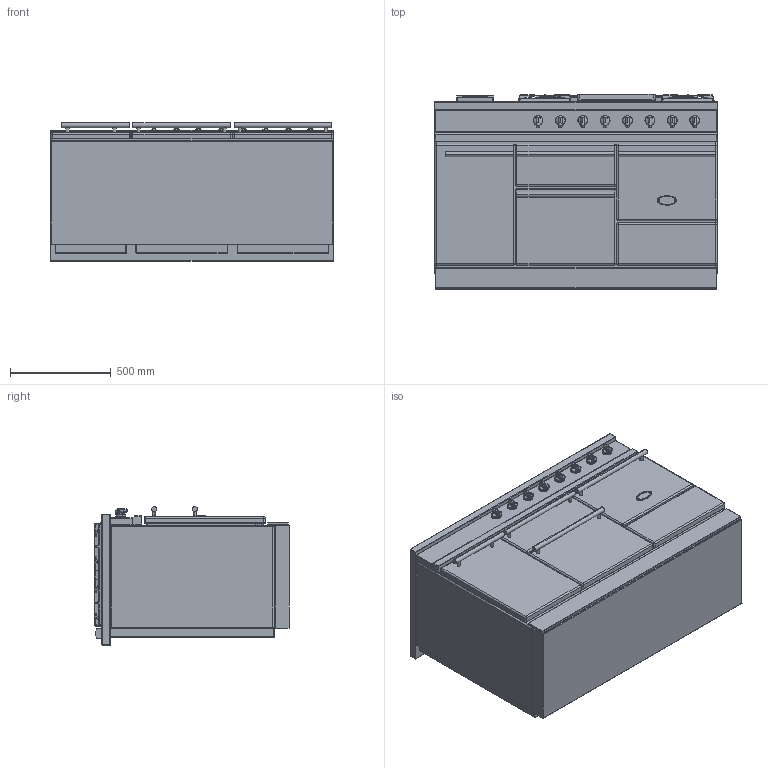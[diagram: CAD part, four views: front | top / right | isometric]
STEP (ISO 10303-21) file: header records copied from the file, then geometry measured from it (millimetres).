
FILE_DESCRIPTION((''),'2;1');
FILE_NAME('LMCF1453G_ASM','2022-04-13T11:17:22',('stagiaire'),(''),'CREO PARAMETRIC BY PTC INC, 2021424','CREO PARAMETRIC BY PTC INC, 2021424','');
FILE_SCHEMA(('AP203_CONFIGURATION_CONTROLLED_3D_DESIGN_OF_MECHANICAL_PARTS_AND_ASSEMBLIES_MIM_LF { 1 0 10303 403 2 1 2 }'));
Products named in the file (22): BASE_EXPORT_CHAGNY_1400G_MODERN; 65049009; 65650001; 65064012; 19150009; 88064012_ASM; BASE_EXPORT_CHAGNY_1400G_MODERN_ASM; TABLE_1405G_CLASSIQUE; 3KW; 5KW; 1_5KW; 4KW; 65062008; 65062012; 65149005; 90000549_ASM; 6537023; 90000565_ASM; CHEMINEE_2020_LG182_EXPORT_STEP; CHEMINEE_2020_LG371_EXPORT_STEP; TABLE_1405G_TRADITION_ASM; LMCF1453G_ASM
Assembly tree (38 placements, depth 4):
  LMCF1453G_ASM
    BASE_EXPORT_CHAGNY_1400G_MODERN_ASM
      BASE_EXPORT_CHAGNY_1400G_MODERN
      65049009
      65650001
      88064012_ASM  x8
        65064012
        19150009
    TABLE_1405G_TRADITION_ASM
      TABLE_1405G_CLASSIQUE
      3KW  x2
      5KW
      1_5KW
      4KW
      90000549_ASM
        65062008
        65062012
        65149005  x4
      90000565_ASM  x2
        6537023
        65149005
      CHEMINEE_2020_LG182_EXPORT_STEP
      CHEMINEE_2020_LG371_EXPORT_STEP  x2
Bounding box: 1405 x 967 x 687.75 mm (x, y, z)
Volume: 753187189 mm3; surface area: 11768586.6 mm2
Topology: 48 solids, 48 shells, 7359 faces, 19885 edges, 12604 vertices
Faces by surface type: plane 3021, cylinder 2167, bspline 1193, sphere 424, cone 267, torus 245, extrusion 42
Entity records: 210883 total; most frequent: CARTESIAN_POINT 59841, ORIENTED_EDGE 24584, DIRECTION 22855, EDGE_CURVE 12292, PRESENTATION_STYLE_ASSIGNMENT 8938, STYLED_ITEM 8938, CURVE_STYLE 8737, VECTOR 8462
